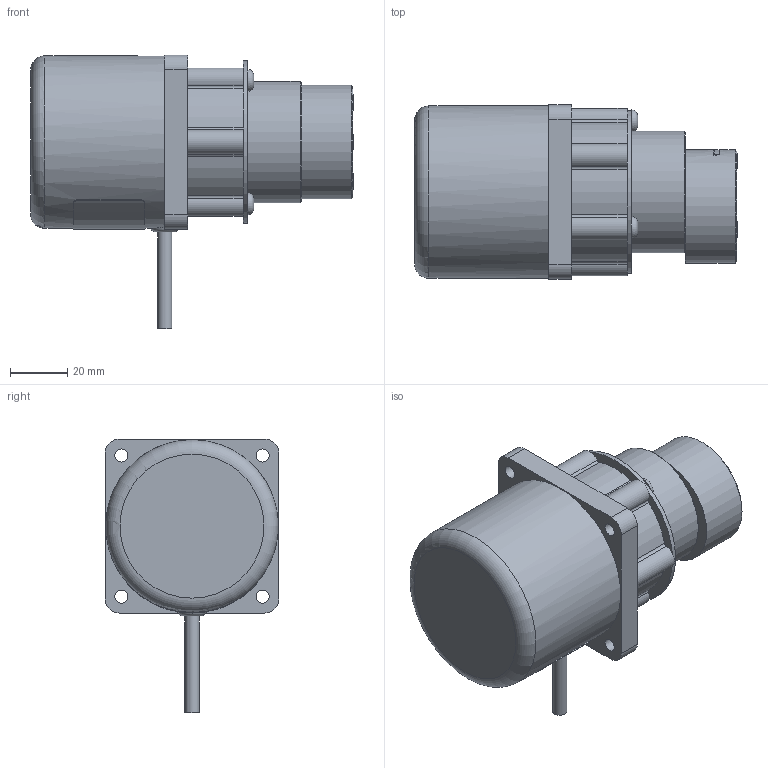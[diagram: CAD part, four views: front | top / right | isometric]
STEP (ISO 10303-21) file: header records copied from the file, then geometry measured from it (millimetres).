
FILE_DESCRIPTION (( 'STEP AP214' ), '1' );
FILE_NAME ('PD11-PM-0.STEP', '2017-03-03T21:41:00', ( '' ), ( '' ), 'SwSTEP 2.0', 'SolidWorks 2015', '' );
FILE_SCHEMA (( 'AUTOMOTIVE_DESIGN' ));
Length unit declared in the file: millimetre
Products named in the file (15): Bracket^PD11-MB-0; MB0055^Bracket_PD11-MB-0; PD11-MO-0_bottom cut; PD11-PM-0; PD03-SC-3; PD11-PU-0; PD03-SC-1; PD11-EP-0; PD03-SC-0; PD11-CU-0; PD11-BO-0; Copy of BB0031^PD11-BO-0; PD03-FL-0; PD11-MA-0; PD11-MB-0
Assembly tree (23 placements, depth 5):
  PD11-PM-0
    PD11-MA-0
      PD11-MO-0_bottom cut
      PD11-MB-0
        Bracket^PD11-MB-0
          MB0055^Bracket_PD11-MB-0
    PD11-PU-0
      PD03-FL-0
      PD11-BO-0
        Copy of BB0031^PD11-BO-0
      PD11-CU-0
      PD03-SC-0  x6
      PD11-EP-0
      PD03-SC-1  x3
    PD03-SC-3  x3
Bounding box: 113.15 x 61 x 96 mm (x, y, z)
Volume: 234014.6 mm3; surface area: 50031.5 mm2
Topology: 18 solids, 18 shells, 237 faces, 536 edges, 351 vertices
Faces by surface type: cylinder 106, plane 87, cone 25, torus 15, bspline 4
Full cylindrical faces by diameter (mm): 3.2 x9, 3.3 x6, 4 x4, 4.2 x3, 4.6 x4, 5 x3, 5.5 x9, 6 x4, 7.6 x3, 8 x1, 8.433 x2, 27.1 x1, 27.14 x1, 28 x2, 29.8 x2, 39.75 x1, 42.52 x1, 57 x1, 60.5 x1
Entity records: 6748 total; most frequent: CARTESIAN_POINT 1334, DIRECTION 1022, ORIENTED_EDGE 762, AXIS2_PLACEMENT_3D 445, EDGE_CURVE 381, EDGE_LOOP 346, VERTEX_POINT 295, FACE_OUTER_BOUND 250
